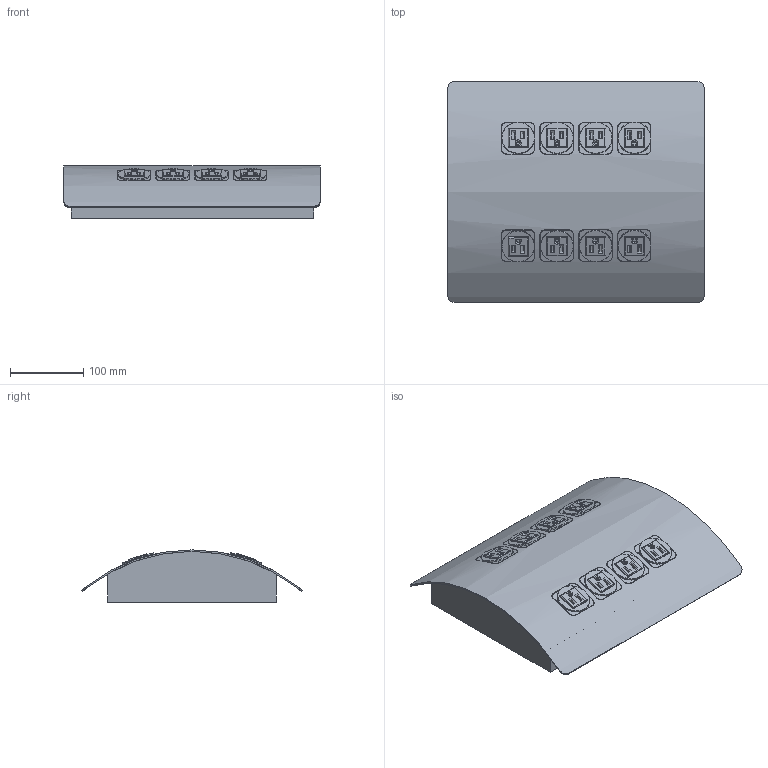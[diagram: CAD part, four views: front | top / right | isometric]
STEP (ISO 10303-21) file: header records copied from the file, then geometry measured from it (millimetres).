
FILE_DESCRIPTION((''),'2;1');
FILE_NAME('P:\Manufacturing\Autocad drawings\Inventor\blocks\pagoda-block\Pagoda US.stp','2021-01-14T12:14:58',('ScottReyner'),(''),'Autodesk Inventor 2012','Autodesk Inventor 2012','');
FILE_SCHEMA(('AUTOMOTIVE_DESIGN { 1 0 10303 214 1 1 1 1 }'));
Length unit declared in the file: inch
Products named in the file (1): Part178
Bounding box: 350 x 302.07 x 71.34 mm (x, y, z)
Volume: 4771779.6 mm3; surface area: 308313.5 mm2
Topology: 9 solids, 9 shells, 733 faces, 1733 edges, 1059 vertices
Faces by surface type: plane 307, cylinder 275, bspline 71, torus 48, sphere 32
Full cylindrical faces by diameter (mm): 44.8 x8, 45 x8
Entity records: 33912 total; most frequent: CARTESIAN_POINT 17210, ORIENTED_EDGE 3370, DIRECTION 3360, EDGE_CURVE 1685, AXIS2_PLACEMENT_3D 1234, VERTEX_POINT 1043, VECTOR 892, LINE 892
